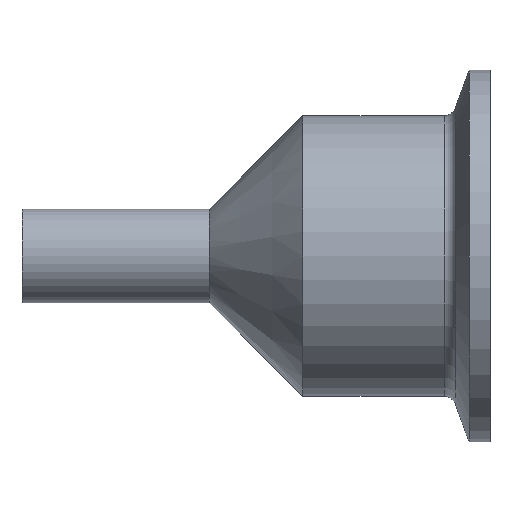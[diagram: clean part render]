
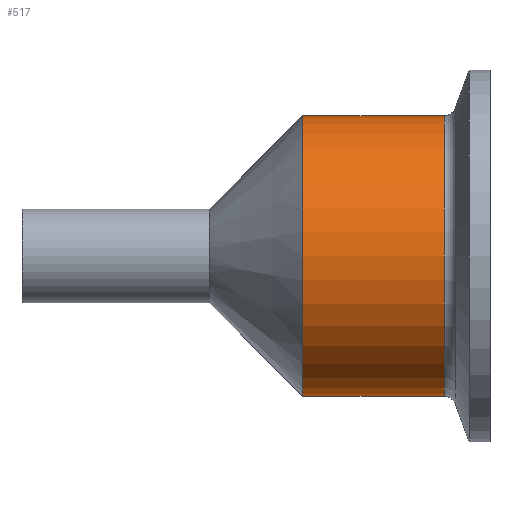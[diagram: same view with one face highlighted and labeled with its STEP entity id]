
A CAD part, left-side view. The second image highlights one B-rep face of the part: STEP entity #517.
In plain terms, the highlighted cylindrical face has radius 19.05 mm (diameter 38.1 mm), a partial arc.
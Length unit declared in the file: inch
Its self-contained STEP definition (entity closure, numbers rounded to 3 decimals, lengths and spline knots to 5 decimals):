
#5 = CARTESIAN_POINT ( 'NONE',  ( 0., 1., 0.75 ) ) ;
#26 = EDGE_CURVE ( 'NONE', #179, #578, #552, .T. ) ;
#113 = CARTESIAN_POINT ( 'NONE',  ( 0., 0.24419, 0.75 ) ) ;
#120 = EDGE_CURVE ( 'NONE', #179, #241, #550, .T. ) ;
#124 = AXIS2_PLACEMENT_3D ( 'NONE', #287, #802, #540 ) ;
#179 = VERTEX_POINT ( 'NONE', #5 ) ;
#203 = VECTOR ( 'NONE', #294, 39.37008 ) ;
#226 = DIRECTION ( 'NONE',  ( 0., -1., 0. ) ) ;
#232 = CYLINDRICAL_SURFACE ( 'NONE', #124, 0.75 ) ;
#241 = VERTEX_POINT ( 'NONE', #573 ) ;
#245 = DIRECTION ( 'NONE',  ( 0., 1., 0. ) ) ;
#287 = CARTESIAN_POINT ( 'NONE',  ( 0., 0., 0. ) ) ;
#294 = DIRECTION ( 'NONE',  ( 0., -1., 0. ) ) ;
#405 = VECTOR ( 'NONE', #226, 39.37008 ) ;
#417 = ORIENTED_EDGE ( 'NONE', *, *, #501, .T. ) ;
#470 = DIRECTION ( 'NONE',  ( 0., -1., 0. ) ) ;
#483 = ORIENTED_EDGE ( 'NONE', *, *, #26, .F. ) ;
#486 = CARTESIAN_POINT ( 'NONE',  ( 0., 0., -0.75 ) ) ;
#490 = LINE ( 'NONE', #486, #405 ) ;
#501 = EDGE_CURVE ( 'NONE', #241, #599, #490, .T. ) ;
#512 = CIRCLE ( 'NONE', #649, 0.75 ) ;
#517 = ADVANCED_FACE ( 'NONE', ( #600 ), #232, .T. ) ;
#540 = DIRECTION ( 'NONE',  ( 0., 0., -1. ) ) ;
#550 = CIRCLE ( 'NONE', #612, 0.75 ) ;
#552 = LINE ( 'NONE', #607, #203 ) ;
#573 = CARTESIAN_POINT ( 'NONE',  ( 0., 1., -0.75 ) ) ;
#578 = VERTEX_POINT ( 'NONE', #113 ) ;
#599 = VERTEX_POINT ( 'NONE', #624 ) ;
#600 = FACE_OUTER_BOUND ( 'NONE', #671, .T. ) ;
#604 = CARTESIAN_POINT ( 'NONE',  ( 0., 0.24419, 0. ) ) ;
#607 = CARTESIAN_POINT ( 'NONE',  ( 0., 0., 0.75 ) ) ;
#609 = EDGE_CURVE ( 'NONE', #599, #578, #512, .T. ) ;
#612 = AXIS2_PLACEMENT_3D ( 'NONE', #792, #470, #796 ) ;
#624 = CARTESIAN_POINT ( 'NONE',  ( 0., 0.24419, -0.75 ) ) ;
#649 = AXIS2_PLACEMENT_3D ( 'NONE', #604, #245, #754 ) ;
#671 = EDGE_LOOP ( 'NONE', ( #483, #769, #417, #811 ) ) ;
#754 = DIRECTION ( 'NONE',  ( 0., 0., -1. ) ) ;
#769 = ORIENTED_EDGE ( 'NONE', *, *, #120, .T. ) ;
#792 = CARTESIAN_POINT ( 'NONE',  ( 0., 1., 0. ) ) ;
#796 = DIRECTION ( 'NONE',  ( 0., 0., -1. ) ) ;
#802 = DIRECTION ( 'NONE',  ( 0., -1., 0. ) ) ;
#811 = ORIENTED_EDGE ( 'NONE', *, *, #609, .T. ) ;
